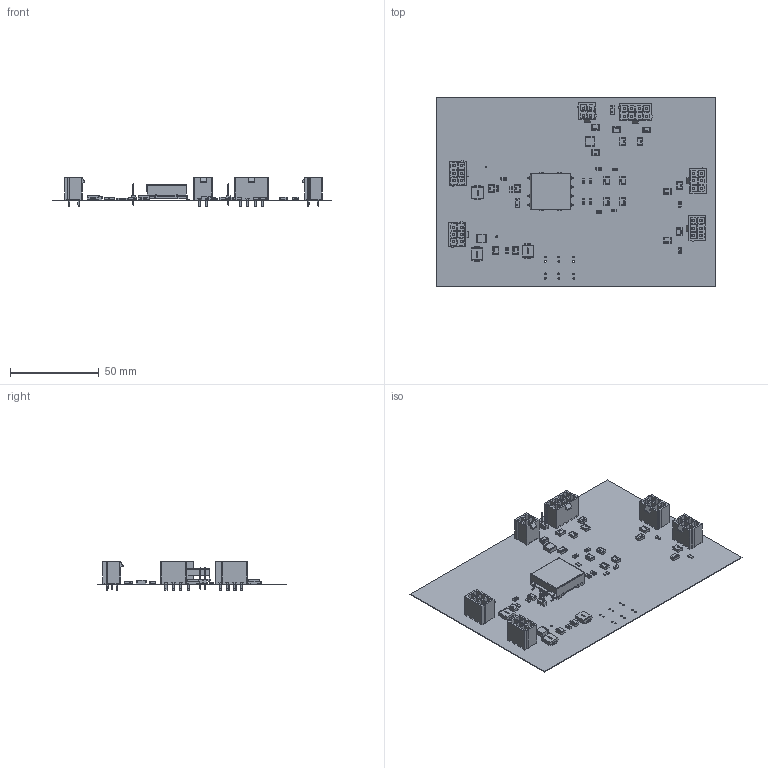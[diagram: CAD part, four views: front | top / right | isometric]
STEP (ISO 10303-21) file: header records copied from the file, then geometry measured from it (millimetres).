
FILE_DESCRIPTION(('Open CASCADE Model'),'2;1');
FILE_NAME('Open CASCADE Shape Model','2021-07-31T11:32:00',('Author'),( 'Open CASCADE'),'Open CASCADE STEP processor 6.8','Open CASCADE 6.8' ,'Unknown');
FILE_SCHEMA(('AUTOMOTIVE_DESIGN { 1 0 10303 214 1 1 1 1 }'));
Length unit declared in the file: millimetre
Products named in the file (66): PCB; Board; C67; SW3dPS-1812_SMD_Capacitor; C7; D4; User_Library-DO-214AB(SMC); D3; R2; User_Library-1206_SMD_Resistor; L66; L65; L64; L63; L61; L44; L42; L38; L37; L4; 2220; JP2; 215398_A60-02-7-G-; ANTELEC-CAC-SI-C-M-TR-D; Broche_droite_carr\X2\00E9\X0\e; Isolant_standard; D1; C69; C68; C66; C64; C61; C44; C42; C36; C35; C8; C2; R68; R67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
Assembly tree (103 placements, depth 5):
  PCB
    Board
    C67
      SW3dPS-1812_SMD_Capacitor
    C7
      SW3dPS-1812_SMD_Capacitor
    D4
      User_Library-DO-214AB(SMC)
    D3
      User_Library-DO-214AB(SMC)
    R2
      User_Library-1206_SMD_Resistor
    L66
      User_Library-1206_SMD_Resistor
    L65
      User_Library-1206_SMD_Resistor
    L64
      User_Library-1206_SMD_Resistor
    L63
      User_Library-1206_SMD_Resistor
    L61
      User_Library-1206_SMD_Resistor
    L44
      SW3dPS-1812_SMD_Capacitor
    L42
      SW3dPS-1812_SMD_Capacitor
    L38
      SW3dPS-1812_SMD_Capacitor
    L37
      SW3dPS-1812_SMD_Capacitor
    L4
      2220
    JP2
      215398_A60-02-7-G-
        ANTELEC-CAC-SI-C-M-TR-D
          Broche_droite_carr\X2\00E9\X0\e  x2
          Isolant_standard
    D1
      User_Library-DO-214AB(SMC)
    C69
      SW3dPS-1812_SMD_Capacitor
    C68
      User_Library-1206_SMD_Resistor
    C66
      SW3dPS-1812_SMD_Capacitor
    C64
      SW3dPS-1812_SMD_Capacitor
    C61
      SW3dPS-1812_SMD_Capacitor
    C44
      SW3dPS-1812_SMD_Capacitor
    C42
      SW3dPS-1812_SMD_Capacitor
    C36
      SW3dPS-1812_SMD_Capacitor
    C35
      SW3dPS-1812_SMD_Capacitor
    C8
      SW3dPS-1812_SMD_Capacitor
    C2
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Bounding box: 157.48 x 106.68 x 16.3 mm (x, y, z)
Volume: 15085.2 mm3; surface area: 50511.1 mm2
Topology: 51 solids, 51 shells, 5179 faces, 13206 edges, 8218 vertices
Faces by surface type: plane 2881, bspline 1159, cylinder 883, sphere 256
Full cylindrical faces by diameter (mm): 0.965 x14, 1 x4, 1.422 x36
Entity records: 58412 total; most frequent: CARTESIAN_POINT 14884, ORIENTED_EDGE 7972, DIRECTION 7270, EDGE_CURVE 3986, LINE 3194, VECTOR 3194, VERTEX_POINT 2588, AXIS2_PLACEMENT_3D 2038
